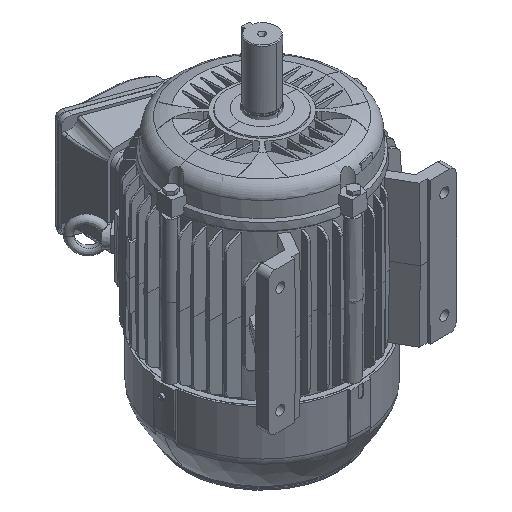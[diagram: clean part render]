
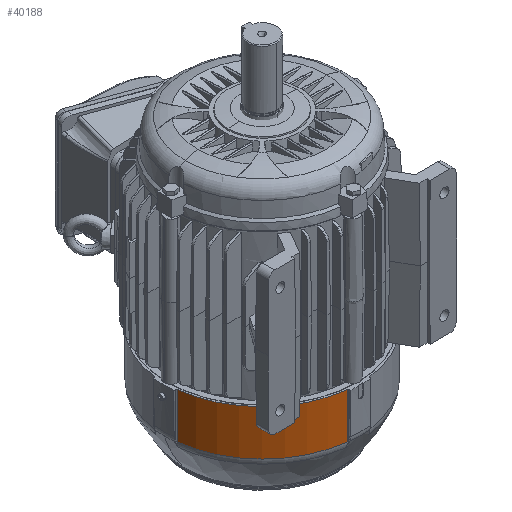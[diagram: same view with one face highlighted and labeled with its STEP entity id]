
A CAD part, isometric view. The second image highlights one B-rep face of the part: STEP entity #40188.
In plain terms, the highlighted cylindrical face has radius 127.75 mm (diameter 255.5 mm), a partial arc.
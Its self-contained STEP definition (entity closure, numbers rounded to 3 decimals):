
#1191 = LINE ( 'NONE', #5964, #21093 ) ;
#5964 = CARTESIAN_POINT ( 'NONE',  ( -126.88, -14.883, -225.549 ) ) ;
#6158 = EDGE_CURVE ( 'NONE', #6879, #68410, #63858, .T. ) ;
#6879 = VERTEX_POINT ( 'NONE', #40041 ) ;
#8565 = EDGE_CURVE ( 'NONE', #38551, #6879, #1191, .T. ) ;
#9148 = CARTESIAN_POINT ( 'NONE',  ( -14.883, -126.88, -95.6 ) ) ;
#11471 = DIRECTION ( 'NONE',  ( 0., 1., 0. ) ) ;
#12059 = DIRECTION ( 'NONE',  ( 0., 0., 1. ) ) ;
#12350 = CARTESIAN_POINT ( 'NONE',  ( 0., 0., -155.332 ) ) ;
#19148 = DIRECTION ( 'NONE',  ( 0., 0., -1. ) ) ;
#21093 = VECTOR ( 'NONE', #19148, 1000. ) ;
#27423 = AXIS2_PLACEMENT_3D ( 'NONE', #34396, #80444, #73895 ) ;
#32248 = DIRECTION ( 'NONE',  ( 0., 0., -1. ) ) ;
#33557 = DIRECTION ( 'NONE',  ( 0., 0., 1. ) ) ;
#34396 = CARTESIAN_POINT ( 'NONE',  ( 0., 0., -225.549 ) ) ;
#35675 = ORIENTED_EDGE ( 'NONE', *, *, #36262, .T. ) ;
#36262 = EDGE_CURVE ( 'NONE', #68410, #62333, #42739, .T. ) ;
#38551 = VERTEX_POINT ( 'NONE', #70874 ) ;
#40041 = CARTESIAN_POINT ( 'NONE',  ( -126.88, -14.883, -155.332 ) ) ;
#40188 = ADVANCED_FACE ( 'NONE', ( #58805 ), #56788, .T. ) ;
#40654 = VECTOR ( 'NONE', #33557, 1000. ) ;
#42739 = LINE ( 'NONE', #85840, #40654 ) ;
#44983 = ORIENTED_EDGE ( 'NONE', *, *, #8565, .T. ) ;
#56788 = CYLINDRICAL_SURFACE ( 'NONE', #27423, 127.75 ) ;
#58805 = FACE_OUTER_BOUND ( 'NONE', #81284, .T. ) ;
#60529 = ORIENTED_EDGE ( 'NONE', *, *, #78286, .T. ) ;
#61214 = AXIS2_PLACEMENT_3D ( 'NONE', #12350, #12059, #11471 ) ;
#62333 = VERTEX_POINT ( 'NONE', #9148 ) ;
#63858 = CIRCLE ( 'NONE', #61214, 127.75 ) ;
#64488 = AXIS2_PLACEMENT_3D ( 'NONE', #71747, #32248, #78347 ) ;
#68410 = VERTEX_POINT ( 'NONE', #73856 ) ;
#70874 = CARTESIAN_POINT ( 'NONE',  ( -126.88, -14.883, -95.6 ) ) ;
#71747 = CARTESIAN_POINT ( 'NONE',  ( 0., 0., -95.6 ) ) ;
#73856 = CARTESIAN_POINT ( 'NONE',  ( -14.883, -126.88, -155.332 ) ) ;
#73895 = DIRECTION ( 'NONE',  ( 0., -1., 0. ) ) ;
#76557 = CIRCLE ( 'NONE', #64488, 127.75 ) ;
#78286 = EDGE_CURVE ( 'NONE', #62333, #38551, #76557, .T. ) ;
#78347 = DIRECTION ( 'NONE',  ( 0., -1., 0. ) ) ;
#80444 = DIRECTION ( 'NONE',  ( 0., 0., -1. ) ) ;
#81284 = EDGE_LOOP ( 'NONE', ( #85965, #35675, #60529, #44983 ) ) ;
#85840 = CARTESIAN_POINT ( 'NONE',  ( -14.883, -126.88, -225.549 ) ) ;
#85965 = ORIENTED_EDGE ( 'NONE', *, *, #6158, .T. ) ;
